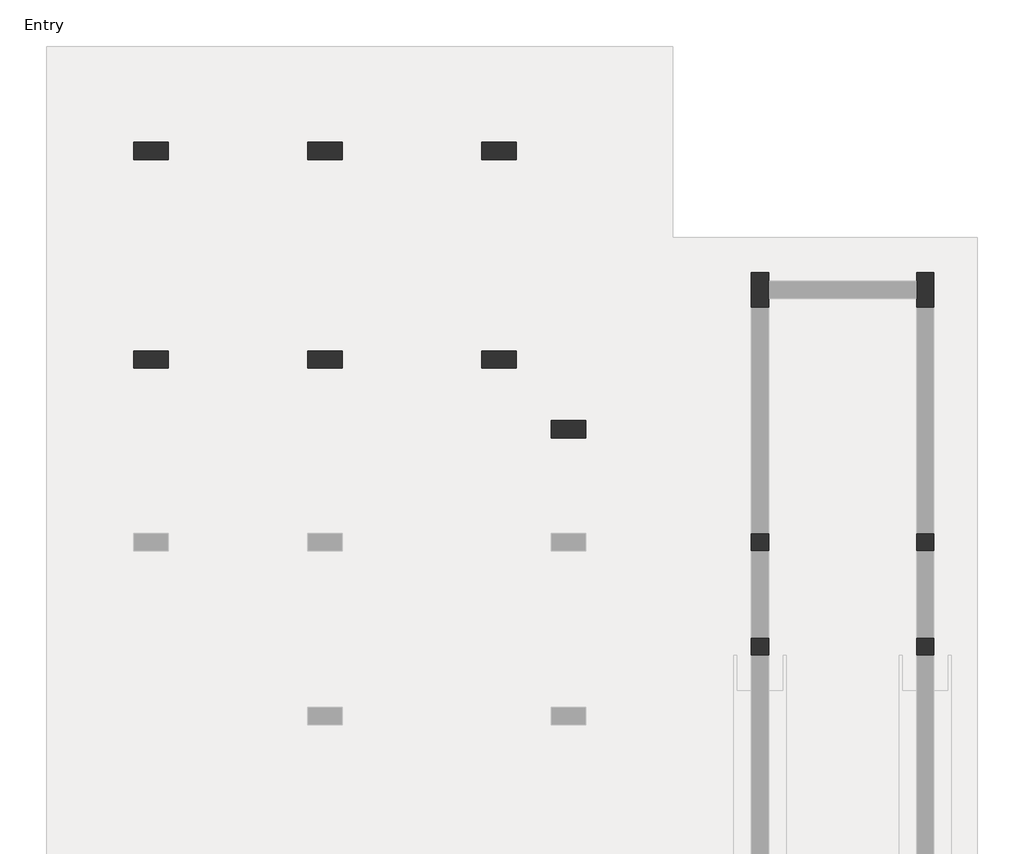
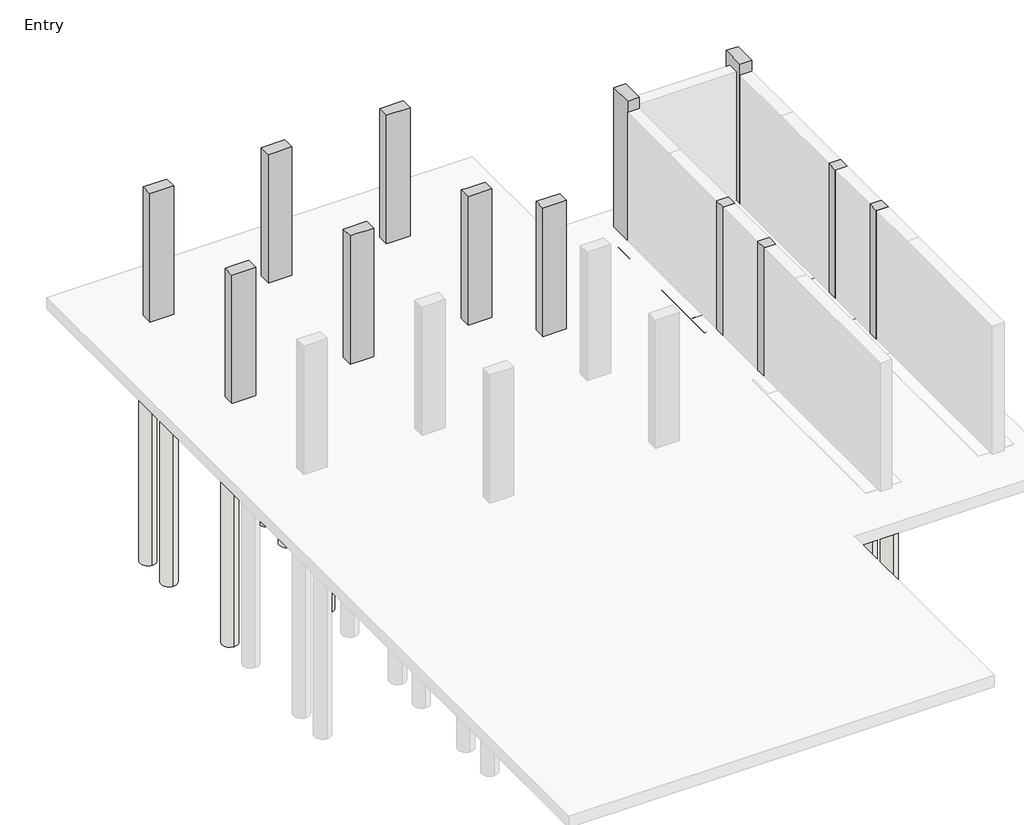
# One storey, part 4 of 4: 38 slabs, 13 columns, 5 footings.
"""IFC4 building model written with IfcOpenShell, lengths in millimetres."""

from ifc_helpers import new_model, si_unit, point, frame, frame_2d, origin, origin_with_axes, place, context, project, spatial, polyline, circle_curve, trimmed, segment, composite_curve, outline, extrude, faceted_brep, element, save

model = new_model("IFC4")

# Units and contexts
model_context = context("Model", 3, world=origin())
ifc_project = project(units=[si_unit("LENGTHUNIT", "METRE", prefix="MILLI")], contexts=[model_context])

# Site, building, storey
site = spatial("IfcSite", under=ifc_project)
building = spatial("IfcBuilding", under=site)
storey = spatial("IfcBuildingStorey", under=building, Name="Entry", Elevation=0.0)

# Columns
placement = place(None, origin())
element("IfcColumn", 1, ObjectType="Concrete-Rectangular-Column : 12 x 24", at=placement, inside=storey, context=model_context, shape_type="Brep", body=[
    faceted_brep([(-15967.1663981, 10274.1487848, 0.0), (-15357.5663981, 10274.1487848, 0.0), (-15357.5663981, 9969.3487848, 0.0), (-15967.1663981, 9969.3487848, 0.0), (-15967.1663981, 10274.1487848, 3505.2), (-15357.5663981, 10274.1487848, 3505.2), (-15357.5663981, 10274.1487848, 2895.6), (-15357.5663981, 9969.3487848, 3505.2), (-15357.5663981, 9969.3487848, 2895.6), (-15509.9663981, 9969.3487848, 3505.2), (-15814.7663981, 9969.3487848, 3505.2), (-15967.1663981, 9969.3487848, 3505.2)], [[[0, 1, 2, 3]], [[4, 5, 6, 1, 0]], [[5, 7, 8, 2, 1, 6]], [[7, 9, 10, 11, 3, 2, 8]], [[11, 4, 0, 3]], [[4, 11, 10, 9, 7, 5]]]),
])
element("IfcColumn", 2, ObjectType="Concrete-Rectangular-Column : 12 x 24", at=placement, inside=storey, context=model_context, shape_type="Brep", body=[
    faceted_brep([(-15967.1663981, 6616.5487848, 0.0), (-15357.5663981, 6616.5487848, 0.0), (-15357.5663981, 6311.7487848, 0.0), (-15967.1663981, 6311.7487848, 0.0), (-15967.1663981, 6616.5487848, 3505.2), (-15814.7663981, 6616.5487848, 3505.2), (-15509.9663981, 6616.5487848, 3505.2), (-15357.5663981, 6616.5487848, 3505.2), (-15357.5663981, 6616.5487848, 2895.6), (-15357.5663981, 6311.7487848, 3505.2), (-15357.5663981, 6311.7487848, 2895.6), (-15509.9663981, 6311.7487848, 3505.2), (-15814.7663981, 6311.7487848, 3505.2), (-15967.1663981, 6311.7487848, 3505.2)], [[[0, 1, 2, 3]], [[4, 5, 6, 7, 8, 1, 0]], [[7, 9, 10, 2, 1, 8]], [[9, 11, 12, 13, 3, 2, 10]], [[13, 4, 0, 3]], [[4, 13, 12, 11, 9, 7, 6, 5]]]),
])
element("IfcColumn", 3, ObjectType="Concrete-Rectangular-Column : 12 x 24", at=placement, inside=storey, context=model_context, shape_type="Brep", body=[
    faceted_brep([(-12919.1663981, 6616.5487848, 0.0), (-12309.5663981, 6616.5487848, 0.0), (-12309.5663981, 6311.7487848, 0.0), (-12919.1663981, 6311.7487848, 0.0), (-12919.1663981, 6616.5487848, 3505.2), (-12766.7663981, 6616.5487848, 3505.2), (-12461.9663981, 6616.5487848, 3505.2), (-12309.5663981, 6616.5487848, 3505.2), (-12309.5663981, 6616.5487848, 2895.6), (-12919.1663981, 6616.5487848, 2895.6), (-12309.5663981, 6311.7487848, 3505.2), (-12309.5663981, 6311.7487848, 2895.6), (-12461.9663981, 6311.7487848, 3505.2), (-12766.7663981, 6311.7487848, 3505.2), (-12919.1663981, 6311.7487848, 3505.2), (-12919.1663981, 6311.7487848, 2895.6)], [[[0, 1, 2, 3]], [[4, 5, 6, 7, 8, 1, 0, 9]], [[7, 10, 11, 2, 1, 8]], [[10, 12, 13, 14, 15, 3, 2, 11]], [[14, 4, 9, 0, 3, 15]], [[4, 14, 13, 12, 10, 7, 6, 5]]]),
])
element("IfcColumn", 4, ObjectType="Concrete-Rectangular-Column : 12 x 24", at=placement, inside=storey, context=model_context, shape_type="Brep", body=[
    faceted_brep([(-12919.1663981, 10274.1487848, 0.0), (-12309.5663981, 10274.1487848, 0.0), (-12309.5663981, 9969.3487848, 0.0), (-12919.1663981, 9969.3487848, 0.0), (-12919.1663981, 10274.1487848, 3505.2), (-12309.5663981, 10274.1487848, 3505.2), (-12309.5663981, 10274.1487848, 2895.6), (-12919.1663981, 10274.1487848, 2895.6), (-12309.5663981, 9969.3487848, 3505.2), (-12309.5663981, 9969.3487848, 2895.6), (-12461.9663981, 9969.3487848, 3505.2), (-12766.7663981, 9969.3487848, 3505.2), (-12919.1663981, 9969.3487848, 3505.2), (-12919.1663981, 9969.3487848, 2895.6)], [[[0, 1, 2, 3]], [[4, 5, 6, 1, 0, 7]], [[5, 8, 9, 2, 1, 6]], [[8, 10, 11, 12, 13, 3, 2, 9]], [[12, 4, 7, 0, 3, 13]], [[4, 12, 11, 10, 8, 5]]]),
])
element("IfcColumn", 5, ObjectType="Concrete-Rectangular-Column : 12 x 24", at=placement, inside=storey, context=model_context, shape_type="Brep", body=[
    faceted_brep([(-9871.1663981, 10274.1487848, 0.0), (-9261.5663981, 10274.1487848, 0.0), (-9261.5663981, 9969.3487848, 0.0), (-9871.1663981, 9969.3487848, 0.0), (-9871.1663981, 10274.1487848, 3505.2), (-9261.5663981, 10274.1487848, 3505.2), (-9871.1663981, 10274.1487848, 2895.6), (-9261.5663981, 9969.3487848, 3505.2), (-9413.9663981, 9969.3487848, 3505.2), (-9718.7663981, 9969.3487848, 3505.2), (-9871.1663981, 9969.3487848, 3505.2), (-9871.1663981, 9969.3487848, 2895.6)], [[[0, 1, 2, 3]], [[4, 5, 1, 0, 6]], [[5, 7, 2, 1]], [[7, 8, 9, 10, 11, 3, 2]], [[10, 4, 6, 0, 3, 11]], [[4, 10, 9, 8, 7, 5]]]),
])
element("IfcColumn", 6, ObjectType="Concrete-Rectangular-Column : 12 x 24", at=placement, inside=storey, context=model_context, shape_type="Brep", body=[
    faceted_brep([(-9871.1663981, 6616.5487848, 0.0), (-9261.5663981, 6616.5487848, 0.0), (-9261.5663981, 6311.7487848, 0.0), (-9871.1663981, 6311.7487848, 0.0), (-9871.1663981, 6616.5487848, 3505.2), (-9718.7663981, 6616.5487848, 3505.2), (-9413.9663981, 6616.5487848, 3505.2), (-9261.5663981, 6616.5487848, 3505.2), (-9871.1663981, 6616.5487848, 2895.6), (-9261.5663981, 6311.7487848, 3505.2), (-9413.9663981, 6311.7487848, 3505.2), (-9718.7663981, 6311.7487848, 3505.2), (-9871.1663981, 6311.7487848, 3505.2), (-9871.1663981, 6311.7487848, 2895.6)], [[[0, 1, 2, 3]], [[4, 5, 6, 7, 1, 0, 8]], [[7, 9, 2, 1]], [[9, 10, 11, 12, 13, 3, 2]], [[12, 4, 8, 0, 3, 13]], [[4, 12, 11, 10, 9, 7, 6, 5]]]),
])
element("IfcColumn", 7, ObjectType="Concrete-Rectangular-Column : 12 x 24", at=placement, inside=storey, context=model_context, shape_type="Brep", body=[
    faceted_brep([(-8651.9663981, 5397.3487848, 0.0), (-8042.3663981, 5397.3487848, 0.0), (-8042.3663981, 5092.5487848, 0.0), (-8651.9663981, 5092.5487848, 0.0), (-8651.9663981, 5397.3487848, 3505.2), (-8042.3663981, 5397.3487848, 3505.2), (-8651.9663981, 5397.3487848, 2895.6), (-8042.3663981, 5092.5487848, 3505.2), (-8194.7663981, 5092.5487848, 3505.2), (-8499.5663981, 5092.5487848, 3505.2), (-8651.9663981, 5092.5487848, 3505.2), (-8651.9663981, 5092.5487848, 2895.6)], [[[0, 1, 2, 3]], [[4, 5, 1, 0, 6]], [[5, 7, 2, 1]], [[7, 8, 9, 10, 11, 3, 2]], [[10, 4, 6, 0, 3, 11]], [[4, 10, 9, 8, 7, 5]]]),
])
element("IfcColumn", 8, ObjectType="Concrete-Rectangular-Column : 12 x 24", at=placement, inside=storey, context=model_context, shape_type="SweptSolid", body=[
    extrude(outline(polyline([(-5146.7663981, 3416.1487848), (-4841.9663981, 3416.1487848), (-4841.9663981, 3111.3487848), (-5146.7663981, 3111.3487848), (-5146.7663981, 3416.1487848)])), origin_with_axes(), (0.0, 0.0, 1.0), 3505.2),
])
element("IfcColumn", 9, ObjectType="Concrete-Rectangular-Column : 12 x 24", at=placement, inside=storey, context=model_context, shape_type="SweptSolid", body=[
    extrude(outline(polyline([(-1946.3663981, 3111.3487848), (-2251.1663981, 3111.3487848), (-2251.1663981, 3416.1487848), (-1946.3663981, 3416.1487848), (-1946.3663981, 3111.3487848)])), origin_with_axes(), (0.0, 0.0, 1.0), 3505.2),
])
element("IfcColumn", 10, ObjectType="Concrete-Rectangular-Column : 12 x 24", at=placement, inside=storey, context=model_context, shape_type="SweptSolid", body=[
    extrude(outline(polyline([(-5146.7663981, 1587.3487848), (-4841.9663981, 1587.3487848), (-4841.9663981, 1282.5487848), (-5146.7663981, 1282.5487848), (-5146.7663981, 1587.3487848)])), origin_with_axes(), (0.0, 0.0, 1.0), 3505.2),
])
element("IfcColumn", 11, ObjectType="Concrete-Rectangular-Column : 12 x 24", at=placement, inside=storey, context=model_context, shape_type="SweptSolid", body=[
    extrude(outline(polyline([(-2251.1663981, 1587.3487848), (-1946.3663981, 1587.3487848), (-1946.3663981, 1282.5487848), (-2251.1663981, 1282.5487848), (-2251.1663981, 1587.3487848)])), origin_with_axes(), (0.0, 0.0, 1.0), 3505.2),
])
element("IfcColumn", 12, ObjectType="Concrete-Rectangular-Column : 12 x 24", at=placement, inside=storey, context=model_context, shape_type="Brep", body=[
    faceted_brep([(-5146.7663981, 7378.5487848, 0.0), (-5146.7663981, 7988.1487848, 0.0), (-4841.9663981, 7988.1487848, 0.0), (-4841.9663981, 7835.7487848, 0.0), (-4841.9663981, 7530.9487848, 0.0), (-4841.9663981, 7378.5487848, 0.0), (-5146.7663981, 7378.5487848, 3810.0), (-5146.7663981, 7988.1487848, 3810.0), (-5146.7663981, 7378.5487848, 3505.2), (-4841.9663981, 7988.1487848, 3810.0), (-4841.9663981, 7378.5487848, 3810.0), (-4841.9663981, 7378.5487848, 3505.2)], [[[0, 1, 2, 3, 4, 5]], [[6, 7, 1, 0, 8]], [[7, 9, 2, 1]], [[9, 10, 11, 5, 4, 3, 2]], [[10, 6, 8, 0, 5, 11]], [[6, 10, 9, 7]]]),
])
element("IfcColumn", 13, ObjectType="Concrete-Rectangular-Column : 12 x 24", at=placement, inside=storey, context=model_context, shape_type="Brep", body=[
    faceted_brep([(-2251.1663981, 7378.5487848, 0.0), (-2251.1663981, 7530.9487848, 0.0), (-2251.1663981, 7835.7487848, 0.0), (-2251.1663981, 7988.1487848, 0.0), (-1946.3663981, 7988.1487848, 0.0), (-1946.3663981, 7378.5487848, 0.0), (-2251.1663981, 7378.5487848, 3810.0), (-2251.1663981, 7988.1487848, 3810.0), (-2251.1663981, 7378.5487848, 3505.2), (-1946.3663981, 7988.1487848, 3810.0), (-1946.3663981, 7378.5487848, 3810.0), (-1946.3663981, 7378.5487848, 3505.2)], [[[0, 1, 2, 3, 4, 5]], [[6, 7, 3, 2, 1, 0, 8]], [[7, 9, 4, 3]], [[9, 10, 11, 5, 4]], [[10, 6, 8, 0, 5, 11]], [[6, 10, 9, 7]]]),
])

# Footings
element("IfcFooting", 14, ObjectType="Bearing Footing - 36\" x 12\"", at=placement, inside=storey, context=model_context, shape_type="Brep", body=[
    faceted_brep([(-4841.9663981, 8140.5487848, 0.0), (-4841.9663981, 8140.5487848, -304.8), (-4841.9663981, 8089.7487848, -304.8), (-4841.9663981, 8089.7487848, 0.0), (-4841.9663981, 7226.1487848, -304.8), (-4841.9663981, 7226.1487848, 0.0), (-4841.9663981, 7276.9487848, 0.0), (-4841.9663981, 7276.9487848, -304.8), (-2251.1663981, 8140.5487848, -304.8), (-2251.1663981, 8140.5487848, 0.0), (-2251.1663981, 8089.7487848, 0.0), (-2251.1663981, 8089.7487848, -304.8), (-2251.1663981, 7226.1487848, 0.0), (-2251.1663981, 7226.1487848, -304.8), (-2251.1663981, 7276.9487848, -304.8), (-2251.1663981, 7276.9487848, 0.0), (-4219.6663981, 8089.7487848, 0.0), (-4219.6663981, 7276.9487848, 0.0), (-4537.1663981, 7226.1487848, 0.0), (-2555.9663981, 7226.1487848, 0.0), (-2873.4663981, 7276.9487848, 0.0), (-2873.4663981, 8089.7487848, 0.0), (-2873.4663981, 8089.7487848, -304.8), (-2873.4663981, 7276.9487848, -304.8), (-2555.9663981, 7226.1487848, -304.8), (-4537.1663981, 7226.1487848, -304.8), (-4219.6663981, 7276.9487848, -304.8), (-4219.6663981, 8089.7487848, -304.8)], [[[0, 1, 2, 3]], [[4, 5, 6, 7]], [[8, 9, 10, 11]], [[12, 13, 14, 15]], [[9, 0, 3, 16, 17, 6, 5, 18, 19, 12, 15, 20, 21, 10]], [[1, 0, 9, 8]], [[1, 8, 11, 22, 23, 14, 13, 24, 25, 4, 7, 26, 27, 2]], [[5, 4, 25, 24, 13, 12, 19, 18]], [[17, 26, 7, 6]], [[26, 17, 16, 27]], [[27, 16, 3, 2]], [[23, 20, 15, 14]], [[21, 22, 11, 10]], [[20, 23, 22, 21]]]),
])
element("IfcFooting", 15, ObjectType="Bearing Footing - 36\" x 12\"", at=placement, inside=storey, context=model_context, shape_type="SweptSolid", body=[
    extrude(outline(polyline([(-5451.5663981, 3416.1487848), (-5451.5663981, 7276.9487848), (-4841.9663981, 7276.9487848), (-4841.9663981, 7226.1487848), (-4537.1663981, 7226.1487848), (-4537.1663981, 3416.1487848), (-4587.9663981, 3416.1487848), (-4587.9663981, 4038.4487848), (-5400.7663981, 4038.4487848), (-5400.7663981, 3416.1487848), (-5451.5663981, 3416.1487848)])), frame((0.0, 0.0, -304.8), z_axis=(0.0, 0.0, 1.0), x_axis=(1.0, 0.0, 0.0)), (0.0, 0.0, 1.0), 304.8),
])
element("IfcFooting", 16, ObjectType="Bearing Footing - 36\" x 12\"", at=placement, inside=storey, context=model_context, shape_type="SweptSolid", body=[
    extrude(outline(polyline([(-1641.5663981, 7276.9487848), (-1641.5663981, 3416.1487848), (-1692.3663981, 3416.1487848), (-1692.3663981, 4038.4487848), (-2505.1663981, 4038.4487848), (-2505.1663981, 3416.1487848), (-2555.9663981, 3416.1487848), (-2555.9663981, 7226.1487848), (-2251.1663981, 7226.1487848), (-2251.1663981, 7276.9487848), (-1641.5663981, 7276.9487848)])), frame((0.0, 0.0, -304.8), z_axis=(0.0, 0.0, 1.0), x_axis=(1.0, 0.0, 0.0)), (0.0, 0.0, 1.0), 304.8),
])
element("IfcFooting", 17, ObjectType="Bearing Footing - 36\" x 12\"", at=placement, inside=storey, context=model_context, shape_type="SweptSolid", body=[
    extrude(outline(polyline([(-4537.1663981, 3111.3487848), (-4537.1663981, 1587.3487848), (-4587.9663981, 1587.3487848), (-4587.9663981, 2209.6487848), (-5400.7663981, 2209.6487848), (-5400.7663981, 1587.3487848), (-5451.5663981, 1587.3487848), (-5451.5663981, 3111.3487848), (-5400.7663981, 3111.3487848), (-5400.7663981, 2489.0487848), (-4587.9663981, 2489.0487848), (-4587.9663981, 3111.3487848), (-4537.1663981, 3111.3487848)])), frame((0.0, 0.0, -304.8), z_axis=(0.0, 0.0, 1.0), x_axis=(1.0, 0.0, 0.0)), (0.0, 0.0, 1.0), 304.8),
])
element("IfcFooting", 18, ObjectType="Bearing Footing - 36\" x 12\"", at=placement, inside=storey, context=model_context, shape_type="SweptSolid", body=[
    extrude(outline(polyline([(-1641.5663981, 3111.3487848), (-1641.5663981, 1587.3487848), (-1692.3663981, 1587.3487848), (-1692.3663981, 2209.6487848), (-2505.1663981, 2209.6487848), (-2505.1663981, 1587.3487848), (-2555.9663981, 1587.3487848), (-2555.9663981, 3111.3487848), (-2505.1663981, 3111.3487848), (-2505.1663981, 2489.0487848), (-1692.3663981, 2489.0487848), (-1692.3663981, 3111.3487848), (-1641.5663981, 3111.3487848)])), frame((0.0, 0.0, -304.8), z_axis=(0.0, 0.0, 1.0), x_axis=(1.0, 0.0, 0.0)), (0.0, 0.0, 1.0), 304.8),
])

# Slabs
element("IfcSlab", 19, ObjectType="Pile Cap-2 Pile : 31\"x61\"x35\"", at=placement, inside=storey, context=model_context, shape_type="SweptSolid", body=[
    extrude(outline(polyline([(-16068.7663981, 10896.4487848), (-15255.9663981, 10896.4487848), (-15255.9663981, 9347.0487848), (-16068.7663981, 9347.0487848), (-16068.7663981, 10896.4487848)])), frame((0.0, 0.0, -889.0), z_axis=(0.0, 0.0, 1.0), x_axis=(1.0, 0.0, 0.0)), (0.0, 0.0, 1.0), 584.2),
])
element("IfcSlab", 20, ObjectType="Pile Cap-2 Pile : 31\"x61\"x35\"", at=placement, inside=storey, context=model_context, shape_type="SweptSolid", body=[
    extrude(outline(polyline([(-13020.7663981, 10896.4487848), (-12207.9663981, 10896.4487848), (-12207.9663981, 9347.0487848), (-13020.7663981, 9347.0487848), (-13020.7663981, 10896.4487848)])), frame((0.0, 0.0, -889.0), z_axis=(0.0, 0.0, 1.0), x_axis=(1.0, 0.0, 0.0)), (0.0, 0.0, 1.0), 584.2),
])
element("IfcSlab", 21, ObjectType="Pile Cap-2 Pile : 31\"x61\"x35\"", at=placement, inside=storey, context=model_context, shape_type="SweptSolid", body=[
    extrude(outline(polyline([(-16068.7663981, 7238.8487848), (-15255.9663981, 7238.8487848), (-15255.9663981, 5689.4487848), (-16068.7663981, 5689.4487848), (-16068.7663981, 7238.8487848)])), frame((0.0, 0.0, -889.0), z_axis=(0.0, 0.0, 1.0), x_axis=(1.0, 0.0, 0.0)), (0.0, 0.0, 1.0), 584.2),
])
element("IfcSlab", 22, ObjectType="Pile Cap-2 Pile : 31\"x61\"x35\"", at=placement, inside=storey, context=model_context, shape_type="SweptSolid", body=[
    extrude(outline(polyline([(-9972.7663981, 10896.4487848), (-9159.9663981, 10896.4487848), (-9159.9663981, 9347.0487848), (-9972.7663981, 9347.0487848), (-9972.7663981, 10896.4487848)])), frame((0.0, 0.0, -889.0), z_axis=(0.0, 0.0, 1.0), x_axis=(1.0, 0.0, 0.0)), (0.0, 0.0, 1.0), 584.2),
])
element("IfcSlab", 23, ObjectType="Pile Cap-2 Pile : 31\"x61\"x35\"", at=placement, inside=storey, context=model_context, shape_type="SweptSolid", body=[
    extrude(outline(polyline([(-9972.7663981, 7238.8487848), (-9159.9663981, 7238.8487848), (-9159.9663981, 5689.4487848), (-9972.7663981, 5689.4487848), (-9972.7663981, 7238.8487848)])), frame((0.0, 0.0, -889.0), z_axis=(0.0, 0.0, 1.0), x_axis=(1.0, 0.0, 0.0)), (0.0, 0.0, 1.0), 584.2),
])
element("IfcSlab", 24, ObjectType="Pile Cap-2 Pile : 31\"x61\"x35\"", at=placement, inside=storey, context=model_context, shape_type="SweptSolid", body=[
    extrude(outline(polyline([(-5769.0663981, 7276.9487848), (-5769.0663981, 8089.7487848), (-4219.6663981, 8089.7487848), (-4219.6663981, 7276.9487848), (-5769.0663981, 7276.9487848)])), frame((0.0, 0.0, -889.0), z_axis=(0.0, 0.0, 1.0), x_axis=(1.0, 0.0, 0.0)), (0.0, 0.0, 1.0), 584.2),
])
element("IfcSlab", 25, ObjectType="Pile Cap-2 Pile : 31\"x61\"x35\"", at=placement, inside=storey, context=model_context, shape_type="SweptSolid", body=[
    extrude(outline(polyline([(-2873.4663981, 7276.9487848), (-2873.4663981, 8089.7487848), (-1324.0663981, 8089.7487848), (-1324.0663981, 7276.9487848), (-2873.4663981, 7276.9487848)])), frame((0.0, 0.0, -889.0), z_axis=(0.0, 0.0, 1.0), x_axis=(1.0, 0.0, 0.0)), (0.0, 0.0, 1.0), 584.2),
])
element("IfcSlab", 26, ObjectType="Pile Cap-2 Pile : 31\"x61\"x35\"", at=placement, inside=storey, context=model_context, shape_type="SweptSolid", body=[
    extrude(outline(polyline([(-5400.7663981, 4038.4487848), (-4587.9663981, 4038.4487848), (-4587.9663981, 2489.0487848), (-5400.7663981, 2489.0487848), (-5400.7663981, 4038.4487848)])), frame((0.0, 0.0, -889.0), z_axis=(0.0, 0.0, 1.0), x_axis=(1.0, 0.0, 0.0)), (0.0, 0.0, 1.0), 584.2),
])
element("IfcSlab", 27, ObjectType="Pile Cap-2 Pile : 31\"x61\"x35\"", at=placement, inside=storey, context=model_context, shape_type="SweptSolid", body=[
    extrude(outline(polyline([(-5400.7663981, 2209.6487848), (-4587.9663981, 2209.6487848), (-4587.9663981, 660.2487848), (-5400.7663981, 660.2487848), (-5400.7663981, 2209.6487848)])), frame((0.0, 0.0, -889.0), z_axis=(0.0, 0.0, 1.0), x_axis=(1.0, 0.0, 0.0)), (0.0, 0.0, 1.0), 584.2),
])
element("IfcSlab", 28, ObjectType="Pile Cap-2 Pile : 31\"x61\"x35\"", at=placement, inside=storey, context=model_context, shape_type="SweptSolid", body=[
    extrude(outline(polyline([(-2505.1663981, 4038.4487848), (-1692.3663981, 4038.4487848), (-1692.3663981, 2489.0487848), (-2505.1663981, 2489.0487848), (-2505.1663981, 4038.4487848)])), frame((0.0, 0.0, -889.0), z_axis=(0.0, 0.0, 1.0), x_axis=(1.0, 0.0, 0.0)), (0.0, 0.0, 1.0), 584.2),
])
element("IfcSlab", 29, ObjectType="Pile Cap-2 Pile : 31\"x61\"x35\"", at=placement, inside=storey, context=model_context, shape_type="SweptSolid", body=[
    extrude(outline(polyline([(-2505.1663981, 2209.6487848), (-1692.3663981, 2209.6487848), (-1692.3663981, 660.2487848), (-2505.1663981, 660.2487848), (-2505.1663981, 2209.6487848)])), frame((0.0, 0.0, -889.0), z_axis=(0.0, 0.0, 1.0), x_axis=(1.0, 0.0, 0.0)), (0.0, 0.0, 1.0), 584.2),
])
element("IfcSlab", 30, ObjectType="Pile Cap-2 Pile : 31\"x61\"x35\"", at=placement, inside=storey, context=model_context, shape_type="SweptSolid", body=[
    extrude(outline(polyline([(-7940.7663981, 4470.2487848), (-8753.5663981, 4470.2487848), (-8753.5663981, 6019.6487848), (-7940.7663981, 6019.6487848), (-7940.7663981, 4470.2487848)])), frame((0.0, 0.0, -889.0), z_axis=(0.0, 0.0, 1.0), x_axis=(1.0, 0.0, 0.0)), (0.0, 0.0, 1.0), 584.2),
])
element("IfcSlab", 31, ObjectType="Pile Cap-4 Pile : 72\"x72\"x35\"", at=placement, inside=storey, context=model_context, shape_type="SweptSolid", body=[
    extrude(outline(polyline([(-13528.7663981, 7378.5487848), (-11699.9663981, 7378.5487848), (-11699.9663981, 5549.7487848), (-13528.7663981, 5549.7487848), (-13528.7663981, 7378.5487848)])), frame((0.0, 0.0, -889.0), z_axis=(0.0, 0.0, 1.0), x_axis=(1.0, 0.0, 0.0)), (0.0, 0.0, 1.0), 584.2),
])
element("IfcSlab", 32, ObjectType="Pile-Steel Pipe : 16\" Diameter", at=placement, inside=storey, context=model_context, shape_type="SweptSolid", body=[
    extrude(outline(composite_curve([segment(trimmed(circle_curve(frame_2d((-12080.9663981, 6997.5487848)), 203.2), [point((-12080.9663981, 6794.3487848))], [point((-12080.9663981, 7200.7487848))], False, "CARTESIAN"), True, "CONTINUOUS"), segment(trimmed(circle_curve(frame_2d((-12080.9663981, 6997.5487848)), 203.2), [point((-12080.9663981, 7200.7487848))], [point((-12080.9663981, 6794.3487848))], False, "CARTESIAN"), True, "CONTINUOUS")], self_intersect=False)), frame((0.0, 0.0, -6985.0), z_axis=(0.0, 0.0, 1.0), x_axis=(1.0, 0.0, 0.0)), (0.0, 0.0, 1.0), 6096.0),
])
element("IfcSlab", 33, ObjectType="Pile-Steel Pipe : 16\" Diameter", at=placement, inside=storey, context=model_context, shape_type="SweptSolid", body=[
    extrude(outline(composite_curve([segment(trimmed(circle_curve(frame_2d((-13147.7663981, 6997.5487848)), 203.2), [point((-13147.7663981, 6794.3487848))], [point((-13147.7663981, 7200.7487848))], False, "CARTESIAN"), True, "CONTINUOUS"), segment(trimmed(circle_curve(frame_2d((-13147.7663981, 6997.5487848)), 203.2), [point((-13147.7663981, 7200.7487848))], [point((-13147.7663981, 6794.3487848))], False, "CARTESIAN"), True, "CONTINUOUS")], self_intersect=False)), frame((0.0, 0.0, -6985.0), z_axis=(0.0, 0.0, 1.0), x_axis=(1.0, 0.0, 0.0)), (0.0, 0.0, 1.0), 6096.0),
])
element("IfcSlab", 34, ObjectType="Pile-Steel Pipe : 16\" Diameter", at=placement, inside=storey, context=model_context, shape_type="SweptSolid", body=[
    extrude(outline(composite_curve([segment(trimmed(circle_curve(frame_2d((-15662.3663981, 9651.8487848)), 203.2), [point((-15662.3663981, 9448.6487848))], [point((-15662.3663981, 9855.0487848))], False, "CARTESIAN"), True, "CONTINUOUS"), segment(trimmed(circle_curve(frame_2d((-15662.3663981, 9651.8487848)), 203.2), [point((-15662.3663981, 9855.0487848))], [point((-15662.3663981, 9448.6487848))], False, "CARTESIAN"), True, "CONTINUOUS")], self_intersect=False)), frame((0.0, 0.0, -6985.0), z_axis=(0.0, 0.0, 1.0), x_axis=(1.0, 0.0, 0.0)), (0.0, 0.0, 1.0), 6096.0),
])
element("IfcSlab", 35, ObjectType="Pile-Steel Pipe : 16\" Diameter", at=placement, inside=storey, context=model_context, shape_type="SweptSolid", body=[
    extrude(outline(composite_curve([segment(trimmed(circle_curve(frame_2d((-15662.3663981, 10591.6487848)), 203.2), [point((-15662.3663981, 10388.4487848))], [point((-15662.3663981, 10794.8487848))], False, "CARTESIAN"), True, "CONTINUOUS"), segment(trimmed(circle_curve(frame_2d((-15662.3663981, 10591.6487848)), 203.2), [point((-15662.3663981, 10794.8487848))], [point((-15662.3663981, 10388.4487848))], False, "CARTESIAN"), True, "CONTINUOUS")], self_intersect=False)), frame((0.0, 0.0, -6985.0), z_axis=(0.0, 0.0, 1.0), x_axis=(1.0, 0.0, 0.0)), (0.0, 0.0, 1.0), 6096.0),
])
element("IfcSlab", 36, ObjectType="Pile-Steel Pipe : 16\" Diameter", at=placement, inside=storey, context=model_context, shape_type="SweptSolid", body=[
    extrude(outline(composite_curve([segment(trimmed(circle_curve(frame_2d((-12614.3663981, 9651.8487848)), 203.2), [point((-12614.3663981, 9448.6487848))], [point((-12614.3663981, 9855.0487848))], False, "CARTESIAN"), True, "CONTINUOUS"), segment(trimmed(circle_curve(frame_2d((-12614.3663981, 9651.8487848)), 203.2), [point((-12614.3663981, 9855.0487848))], [point((-12614.3663981, 9448.6487848))], False, "CARTESIAN"), True, "CONTINUOUS")], self_intersect=False)), frame((0.0, 0.0, -6985.0), z_axis=(0.0, 0.0, 1.0), x_axis=(1.0, 0.0, 0.0)), (0.0, 0.0, 1.0), 6096.0),
])
element("IfcSlab", 37, ObjectType="Pile-Steel Pipe : 16\" Diameter", at=placement, inside=storey, context=model_context, shape_type="SweptSolid", body=[
    extrude(outline(composite_curve([segment(trimmed(circle_curve(frame_2d((-12614.3663981, 10591.6487848)), 203.2), [point((-12614.3663981, 10388.4487848))], [point((-12614.3663981, 10794.8487848))], False, "CARTESIAN"), True, "CONTINUOUS"), segment(trimmed(circle_curve(frame_2d((-12614.3663981, 10591.6487848)), 203.2), [point((-12614.3663981, 10794.8487848))], [point((-12614.3663981, 10388.4487848))], False, "CARTESIAN"), True, "CONTINUOUS")], self_intersect=False)), frame((0.0, 0.0, -6985.0), z_axis=(0.0, 0.0, 1.0), x_axis=(1.0, 0.0, 0.0)), (0.0, 0.0, 1.0), 6096.0),
])
element("IfcSlab", 38, ObjectType="Pile-Steel Pipe : 16\" Diameter", at=placement, inside=storey, context=model_context, shape_type="SweptSolid", body=[
    extrude(outline(composite_curve([segment(trimmed(circle_curve(frame_2d((-15662.3663981, 6934.0487848)), 203.2), [point((-15662.3663981, 6730.8487848))], [point((-15662.3663981, 7137.2487848))], False, "CARTESIAN"), True, "CONTINUOUS"), segment(trimmed(circle_curve(frame_2d((-15662.3663981, 6934.0487848)), 203.2), [point((-15662.3663981, 7137.2487848))], [point((-15662.3663981, 6730.8487848))], False, "CARTESIAN"), True, "CONTINUOUS")], self_intersect=False)), frame((0.0, 0.0, -6985.0), z_axis=(0.0, 0.0, 1.0), x_axis=(1.0, 0.0, 0.0)), (0.0, 0.0, 1.0), 6096.0),
])
element("IfcSlab", 39, ObjectType="Pile-Steel Pipe : 16\" Diameter", at=placement, inside=storey, context=model_context, shape_type="SweptSolid", body=[
    extrude(outline(composite_curve([segment(trimmed(circle_curve(frame_2d((-9566.3663981, 9651.8487848)), 203.2), [point((-9566.3663981, 9448.6487848))], [point((-9566.3663981, 9855.0487848))], False, "CARTESIAN"), True, "CONTINUOUS"), segment(trimmed(circle_curve(frame_2d((-9566.3663981, 9651.8487848)), 203.2), [point((-9566.3663981, 9855.0487848))], [point((-9566.3663981, 9448.6487848))], False, "CARTESIAN"), True, "CONTINUOUS")], self_intersect=False)), frame((0.0, 0.0, -6985.0), z_axis=(0.0, 0.0, 1.0), x_axis=(1.0, 0.0, 0.0)), (0.0, 0.0, 1.0), 6096.0),
])
element("IfcSlab", 40, ObjectType="Pile-Steel Pipe : 16\" Diameter", at=placement, inside=storey, context=model_context, shape_type="SweptSolid", body=[
    extrude(outline(composite_curve([segment(trimmed(circle_curve(frame_2d((-9566.3663981, 10591.6487848)), 203.2), [point((-9566.3663981, 10388.4487848))], [point((-9566.3663981, 10794.8487848))], False, "CARTESIAN"), True, "CONTINUOUS"), segment(trimmed(circle_curve(frame_2d((-9566.3663981, 10591.6487848)), 203.2), [point((-9566.3663981, 10794.8487848))], [point((-9566.3663981, 10388.4487848))], False, "CARTESIAN"), True, "CONTINUOUS")], self_intersect=False)), frame((0.0, 0.0, -6985.0), z_axis=(0.0, 0.0, 1.0), x_axis=(1.0, 0.0, 0.0)), (0.0, 0.0, 1.0), 6096.0),
])
element("IfcSlab", 41, ObjectType="Pile-Steel Pipe : 16\" Diameter", at=placement, inside=storey, context=model_context, shape_type="SweptSolid", body=[
    extrude(outline(composite_curve([segment(trimmed(circle_curve(frame_2d((-9566.3663981, 5994.2487848)), 203.2), [point((-9566.3663981, 5791.0487848))], [point((-9566.3663981, 6197.4487848))], False, "CARTESIAN"), True, "CONTINUOUS"), segment(trimmed(circle_curve(frame_2d((-9566.3663981, 5994.2487848)), 203.2), [point((-9566.3663981, 6197.4487848))], [point((-9566.3663981, 5791.0487848))], False, "CARTESIAN"), True, "CONTINUOUS")], self_intersect=False)), frame((0.0, 0.0, -6985.0), z_axis=(0.0, 0.0, 1.0), x_axis=(1.0, 0.0, 0.0)), (0.0, 0.0, 1.0), 6096.0),
])
element("IfcSlab", 42, ObjectType="Pile-Steel Pipe : 16\" Diameter", at=placement, inside=storey, context=model_context, shape_type="SweptSolid", body=[
    extrude(outline(composite_curve([segment(trimmed(circle_curve(frame_2d((-9566.3663981, 6934.0487848)), 203.2), [point((-9566.3663981, 6730.8487848))], [point((-9566.3663981, 7137.2487848))], False, "CARTESIAN"), True, "CONTINUOUS"), segment(trimmed(circle_curve(frame_2d((-9566.3663981, 6934.0487848)), 203.2), [point((-9566.3663981, 7137.2487848))], [point((-9566.3663981, 6730.8487848))], False, "CARTESIAN"), True, "CONTINUOUS")], self_intersect=False)), frame((0.0, 0.0, -6985.0), z_axis=(0.0, 0.0, 1.0), x_axis=(1.0, 0.0, 0.0)), (0.0, 0.0, 1.0), 6096.0),
])
element("IfcSlab", 43, ObjectType="Pile-Steel Pipe : 16\" Diameter", at=placement, inside=storey, context=model_context, shape_type="SweptSolid", body=[
    extrude(outline(composite_curve([segment(trimmed(circle_curve(frame_2d((-4524.4663981, 7683.3487848)), 203.2), [point((-4321.2663981, 7683.3487848))], [point((-4727.6663981, 7683.3487848))], False, "CARTESIAN"), True, "CONTINUOUS"), segment(trimmed(circle_curve(frame_2d((-4524.4663981, 7683.3487848)), 203.2), [point((-4727.6663981, 7683.3487848))], [point((-4321.2663981, 7683.3487848))], False, "CARTESIAN"), True, "CONTINUOUS")], self_intersect=False)), frame((0.0, 0.0, -6985.0), z_axis=(0.0, 0.0, 1.0), x_axis=(1.0, 0.0, 0.0)), (0.0, 0.0, 1.0), 6096.0),
])
element("IfcSlab", 44, ObjectType="Pile-Steel Pipe : 16\" Diameter", at=placement, inside=storey, context=model_context, shape_type="SweptSolid", body=[
    extrude(outline(composite_curve([segment(trimmed(circle_curve(frame_2d((-5464.2663981, 7683.3487848)), 203.2), [point((-5261.0663981, 7683.3487848))], [point((-5667.4663981, 7683.3487848))], False, "CARTESIAN"), True, "CONTINUOUS"), segment(trimmed(circle_curve(frame_2d((-5464.2663981, 7683.3487848)), 203.2), [point((-5667.4663981, 7683.3487848))], [point((-5261.0663981, 7683.3487848))], False, "CARTESIAN"), True, "CONTINUOUS")], self_intersect=False)), frame((0.0, 0.0, -6985.0), z_axis=(0.0, 0.0, 1.0), x_axis=(1.0, 0.0, 0.0)), (0.0, 0.0, 1.0), 6096.0),
])
element("IfcSlab", 45, ObjectType="Pile-Steel Pipe : 16\" Diameter", at=placement, inside=storey, context=model_context, shape_type="SweptSolid", body=[
    extrude(outline(composite_curve([segment(trimmed(circle_curve(frame_2d((-1628.8663981, 7683.3487848)), 203.2), [point((-1425.6663981, 7683.3487848))], [point((-1832.0663981, 7683.3487848))], False, "CARTESIAN"), True, "CONTINUOUS"), segment(trimmed(circle_curve(frame_2d((-1628.8663981, 7683.3487848)), 203.2), [point((-1832.0663981, 7683.3487848))], [point((-1425.6663981, 7683.3487848))], False, "CARTESIAN"), True, "CONTINUOUS")], self_intersect=False)), frame((0.0, 0.0, -6985.0), z_axis=(0.0, 0.0, 1.0), x_axis=(1.0, 0.0, 0.0)), (0.0, 0.0, 1.0), 6096.0),
])
element("IfcSlab", 46, ObjectType="Pile-Steel Pipe : 16\" Diameter", at=placement, inside=storey, context=model_context, shape_type="SweptSolid", body=[
    extrude(outline(composite_curve([segment(trimmed(circle_curve(frame_2d((-2568.6663981, 7683.3487848)), 203.2), [point((-2365.4663981, 7683.3487848))], [point((-2771.8663981, 7683.3487848))], False, "CARTESIAN"), True, "CONTINUOUS"), segment(trimmed(circle_curve(frame_2d((-2568.6663981, 7683.3487848)), 203.2), [point((-2771.8663981, 7683.3487848))], [point((-2365.4663981, 7683.3487848))], False, "CARTESIAN"), True, "CONTINUOUS")], self_intersect=False)), frame((0.0, 0.0, -6985.0), z_axis=(0.0, 0.0, 1.0), x_axis=(1.0, 0.0, 0.0)), (0.0, 0.0, 1.0), 6096.0),
])
element("IfcSlab", 47, ObjectType="Pile-Steel Pipe : 16\" Diameter", at=placement, inside=storey, context=model_context, shape_type="SweptSolid", body=[
    extrude(outline(composite_curve([segment(trimmed(circle_curve(frame_2d((-4994.3663981, 2793.8487848)), 203.2), [point((-4994.3663981, 2590.6487848))], [point((-4994.3663981, 2997.0487848))], False, "CARTESIAN"), True, "CONTINUOUS"), segment(trimmed(circle_curve(frame_2d((-4994.3663981, 2793.8487848)), 203.2), [point((-4994.3663981, 2997.0487848))], [point((-4994.3663981, 2590.6487848))], False, "CARTESIAN"), True, "CONTINUOUS")], self_intersect=False)), frame((0.0, 0.0, -6985.0), z_axis=(0.0, 0.0, 1.0), x_axis=(1.0, 0.0, 0.0)), (0.0, 0.0, 1.0), 6096.0),
])
element("IfcSlab", 48, ObjectType="Pile-Steel Pipe : 16\" Diameter", at=placement, inside=storey, context=model_context, shape_type="SweptSolid", body=[
    extrude(outline(composite_curve([segment(trimmed(circle_curve(frame_2d((-4994.3663981, 3733.6487848)), 203.2), [point((-4994.3663981, 3530.4487848))], [point((-4994.3663981, 3936.8487848))], False, "CARTESIAN"), True, "CONTINUOUS"), segment(trimmed(circle_curve(frame_2d((-4994.3663981, 3733.6487848)), 203.2), [point((-4994.3663981, 3936.8487848))], [point((-4994.3663981, 3530.4487848))], False, "CARTESIAN"), True, "CONTINUOUS")], self_intersect=False)), frame((0.0, 0.0, -6985.0), z_axis=(0.0, 0.0, 1.0), x_axis=(1.0, 0.0, 0.0)), (0.0, 0.0, 1.0), 6096.0),
])
element("IfcSlab", 49, ObjectType="Pile-Steel Pipe : 16\" Diameter", at=placement, inside=storey, context=model_context, shape_type="SweptSolid", body=[
    extrude(outline(composite_curve([segment(trimmed(circle_curve(frame_2d((-4994.3663981, 965.0487848)), 203.2), [point((-4994.3663981, 761.8487848))], [point((-4994.3663981, 1168.2487848))], False, "CARTESIAN"), True, "CONTINUOUS"), segment(trimmed(circle_curve(frame_2d((-4994.3663981, 965.0487848)), 203.2), [point((-4994.3663981, 1168.2487848))], [point((-4994.3663981, 761.8487848))], False, "CARTESIAN"), True, "CONTINUOUS")], self_intersect=False)), frame((0.0, 0.0, -6985.0), z_axis=(0.0, 0.0, 1.0), x_axis=(1.0, 0.0, 0.0)), (0.0, 0.0, 1.0), 6096.0),
])
element("IfcSlab", 50, ObjectType="Pile-Steel Pipe : 16\" Diameter", at=placement, inside=storey, context=model_context, shape_type="SweptSolid", body=[
    extrude(outline(composite_curve([segment(trimmed(circle_curve(frame_2d((-4994.3663981, 1904.8487848)), 203.2), [point((-4994.3663981, 1701.6487848))], [point((-4994.3663981, 2108.0487848))], False, "CARTESIAN"), True, "CONTINUOUS"), segment(trimmed(circle_curve(frame_2d((-4994.3663981, 1904.8487848)), 203.2), [point((-4994.3663981, 2108.0487848))], [point((-4994.3663981, 1701.6487848))], False, "CARTESIAN"), True, "CONTINUOUS")], self_intersect=False)), frame((0.0, 0.0, -6985.0), z_axis=(0.0, 0.0, 1.0), x_axis=(1.0, 0.0, 0.0)), (0.0, 0.0, 1.0), 6096.0),
])
element("IfcSlab", 51, ObjectType="Pile-Steel Pipe : 16\" Diameter", at=placement, inside=storey, context=model_context, shape_type="SweptSolid", body=[
    extrude(outline(composite_curve([segment(trimmed(circle_curve(frame_2d((-2098.7663981, 2793.8487848)), 203.2), [point((-2098.7663981, 2590.6487848))], [point((-2098.7663981, 2997.0487848))], False, "CARTESIAN"), True, "CONTINUOUS"), segment(trimmed(circle_curve(frame_2d((-2098.7663981, 2793.8487848)), 203.2), [point((-2098.7663981, 2997.0487848))], [point((-2098.7663981, 2590.6487848))], False, "CARTESIAN"), True, "CONTINUOUS")], self_intersect=False)), frame((0.0, 0.0, -6985.0), z_axis=(0.0, 0.0, 1.0), x_axis=(1.0, 0.0, 0.0)), (0.0, 0.0, 1.0), 6096.0),
])
element("IfcSlab", 52, ObjectType="Pile-Steel Pipe : 16\" Diameter", at=placement, inside=storey, context=model_context, shape_type="SweptSolid", body=[
    extrude(outline(composite_curve([segment(trimmed(circle_curve(frame_2d((-2098.7663981, 3733.6487848)), 203.2), [point((-2098.7663981, 3530.4487848))], [point((-2098.7663981, 3936.8487848))], False, "CARTESIAN"), True, "CONTINUOUS"), segment(trimmed(circle_curve(frame_2d((-2098.7663981, 3733.6487848)), 203.2), [point((-2098.7663981, 3936.8487848))], [point((-2098.7663981, 3530.4487848))], False, "CARTESIAN"), True, "CONTINUOUS")], self_intersect=False)), frame((0.0, 0.0, -6985.0), z_axis=(0.0, 0.0, 1.0), x_axis=(1.0, 0.0, 0.0)), (0.0, 0.0, 1.0), 6096.0),
])
element("IfcSlab", 53, ObjectType="Pile-Steel Pipe : 16\" Diameter", at=placement, inside=storey, context=model_context, shape_type="SweptSolid", body=[
    extrude(outline(composite_curve([segment(trimmed(circle_curve(frame_2d((-2098.7663981, 965.0487848)), 203.2), [point((-2098.7663981, 761.8487848))], [point((-2098.7663981, 1168.2487848))], False, "CARTESIAN"), True, "CONTINUOUS"), segment(trimmed(circle_curve(frame_2d((-2098.7663981, 965.0487848)), 203.2), [point((-2098.7663981, 1168.2487848))], [point((-2098.7663981, 761.8487848))], False, "CARTESIAN"), True, "CONTINUOUS")], self_intersect=False)), frame((0.0, 0.0, -6985.0), z_axis=(0.0, 0.0, 1.0), x_axis=(1.0, 0.0, 0.0)), (0.0, 0.0, 1.0), 6096.0),
])
element("IfcSlab", 54, ObjectType="Pile-Steel Pipe : 16\" Diameter", at=placement, inside=storey, context=model_context, shape_type="SweptSolid", body=[
    extrude(outline(composite_curve([segment(trimmed(circle_curve(frame_2d((-2098.7663981, 1904.8487848)), 203.2), [point((-2098.7663981, 1701.6487848))], [point((-2098.7663981, 2108.0487848))], False, "CARTESIAN"), True, "CONTINUOUS"), segment(trimmed(circle_curve(frame_2d((-2098.7663981, 1904.8487848)), 203.2), [point((-2098.7663981, 2108.0487848))], [point((-2098.7663981, 1701.6487848))], False, "CARTESIAN"), True, "CONTINUOUS")], self_intersect=False)), frame((0.0, 0.0, -6985.0), z_axis=(0.0, 0.0, 1.0), x_axis=(1.0, 0.0, 0.0)), (0.0, 0.0, 1.0), 6096.0),
])
element("IfcSlab", 55, ObjectType="Pile-Steel Pipe : 16\" Diameter", at=placement, inside=storey, context=model_context, shape_type="SweptSolid", body=[
    extrude(outline(composite_curve([segment(trimmed(circle_curve(frame_2d((-8347.1663981, 5714.8487848)), 203.2), [point((-8347.1663981, 5918.0487848))], [point((-8347.1663981, 5511.6487848))], False, "CARTESIAN"), True, "CONTINUOUS"), segment(trimmed(circle_curve(frame_2d((-8347.1663981, 5714.8487848)), 203.2), [point((-8347.1663981, 5511.6487848))], [point((-8347.1663981, 5918.0487848))], False, "CARTESIAN"), True, "CONTINUOUS")], self_intersect=False)), frame((0.0, 0.0, -6985.0), z_axis=(0.0, 0.0, 1.0), x_axis=(1.0, 0.0, 0.0)), (0.0, 0.0, 1.0), 6096.0),
])
element("IfcSlab", 56, ObjectType="Pile-Steel Pipe : 16\" Diameter", at=placement, inside=storey, context=model_context, shape_type="SweptSolid", body=[
    extrude(outline(composite_curve([segment(trimmed(circle_curve(frame_2d((-8347.1663981, 4775.0487848)), 203.2), [point((-8347.1663981, 4978.2487848))], [point((-8347.1663981, 4571.8487848))], False, "CARTESIAN"), True, "CONTINUOUS"), segment(trimmed(circle_curve(frame_2d((-8347.1663981, 4775.0487848)), 203.2), [point((-8347.1663981, 4571.8487848))], [point((-8347.1663981, 4978.2487848))], False, "CARTESIAN"), True, "CONTINUOUS")], self_intersect=False)), frame((0.0, 0.0, -6985.0), z_axis=(0.0, 0.0, 1.0), x_axis=(1.0, 0.0, 0.0)), (0.0, 0.0, 1.0), 6096.0),
])

save(model, "model.ifc")
